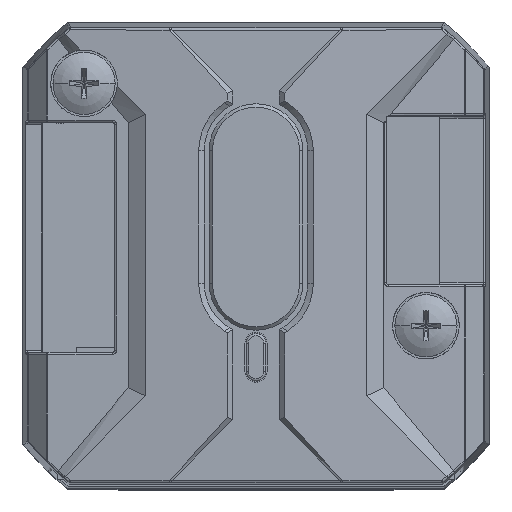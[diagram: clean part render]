
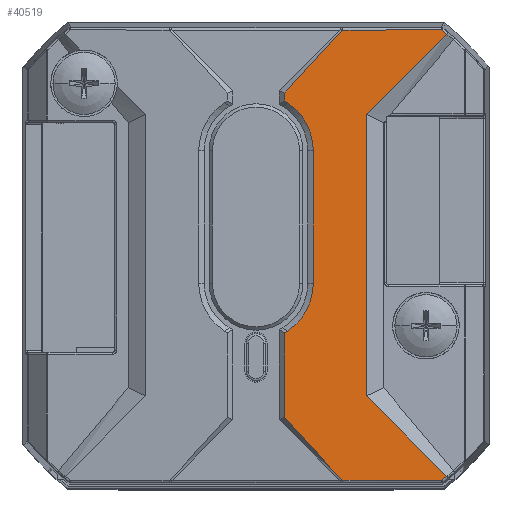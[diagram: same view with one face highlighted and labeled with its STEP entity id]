
A CAD part, top view. The second image highlights one B-rep face of the part: STEP entity #40519.
In plain terms, the highlighted planar face has unit normal (0.088, 0, 0.996).
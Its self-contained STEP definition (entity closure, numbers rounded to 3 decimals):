
#33798=CARTESIAN_POINT('',(7.745,20.285,20.255));
#34108=CARTESIAN_POINT('',(7.745,-20.285,
20.255));
#34120=DIRECTION('',(0.,1.,0.));
#34121=VECTOR('',#34120,7.61);
#34122=CARTESIAN_POINT('',(2.584,-14.613,
20.709));
#34123=LINE('',#34122,#34121);
#34169=DIRECTION('',(0.,1.,0.));
#34170=VECTOR('',#34169,11.958);
#34171=CARTESIAN_POINT('',(5.162,-2.534,
20.482));
#34172=LINE('',#34171,#34170);
#34190=DIRECTION('',(0.,1.,0.));
#34191=VECTOR('',#34190,0.72);
#34192=CARTESIAN_POINT('',(2.584,13.893,20.709));
#34193=LINE('',#34192,#34191);
#34204=CARTESIAN_POINT('',(17.203,-19.918,
19.423));
#34205=CARTESIAN_POINT('',(17.202,-19.916,
19.423));
#34206=CARTESIAN_POINT('',(17.2,-19.914,
19.424));
#34207=CARTESIAN_POINT('',(17.197,-19.91,
19.424));
#34208=CARTESIAN_POINT('',(17.194,-19.908,
19.424));
#34209=CARTESIAN_POINT('',(17.193,-19.907,
19.424));
#34214=CARTESIAN_POINT('',(16.741,-20.306,
19.464));
#34215=CARTESIAN_POINT('',(16.814,-20.246,
19.458));
#34216=CARTESIAN_POINT('',(16.964,-20.122,
19.444));
#34217=CARTESIAN_POINT('',(17.122,-19.988,
19.43));
#34218=CARTESIAN_POINT('',(17.203,-19.918,
19.423));
#34223=DIRECTION('',(0.996,-0.002,-0.088));
#34224=VECTOR('',#34223,9.031);
#34225=CARTESIAN_POINT('',(7.745,-20.285,
20.255));
#34226=LINE('',#34225,#34224);
#34230=DIRECTION('',(0.672,-0.738,-0.059));
#34231=VECTOR('',#34230,7.682);
#34232=CARTESIAN_POINT('',(2.584,-14.613,
20.709));
#34233=LINE('',#34232,#34231);
#34237=CARTESIAN_POINT('',(0.006,-2.509,
20.936));
#34238=DIRECTION('',(-0.088,0.,
-0.996));
#34239=DIRECTION('',(0.547,-0.836,-0.048));
#34240=AXIS2_PLACEMENT_3D('',#34237,#34238,#34239);
#34245=CARTESIAN_POINT('',(0.025,-2.531,
20.934));
#34246=DIRECTION('',(-0.088,0.,-0.996));
#34247=DIRECTION('',(0.996,-0.001,-0.088));
#34248=AXIS2_PLACEMENT_3D('',#34245,#34246,#34247);
#34253=CARTESIAN_POINT('',(0.025,9.421,
20.934));
#34254=DIRECTION('',(-0.088,0.,-0.996));
#34255=DIRECTION('',(0.546,0.836,-0.048));
#34256=AXIS2_PLACEMENT_3D('',#34253,#34254,#34255);
#34261=CARTESIAN_POINT('',(0.006,9.399,
20.936));
#34262=DIRECTION('',(-0.088,0.,
-0.996));
#34263=DIRECTION('',(0.497,0.867,-0.044));
#34264=AXIS2_PLACEMENT_3D('',#34261,#34262,#34263);
#34269=DIRECTION('',(-0.672,-0.738,0.059));
#34270=VECTOR('',#34269,7.682);
#34271=CARTESIAN_POINT('',(7.745,20.285,20.255));
#34272=LINE('',#34271,#34270);
#34276=DIRECTION('',(-0.996,-0.002,0.088));
#34277=VECTOR('',#34276,9.031);
#34278=CARTESIAN_POINT('',(16.741,20.306,19.464));
#34279=LINE('',#34278,#34277);
#34283=CARTESIAN_POINT('',(17.203,19.918,19.423));
#34284=CARTESIAN_POINT('',(17.13,19.98,19.43));
#34285=CARTESIAN_POINT('',(16.981,20.107,19.443));
#34286=CARTESIAN_POINT('',(16.822,20.239,19.457));
#34287=CARTESIAN_POINT('',(16.741,20.306,19.464));
#34292=CARTESIAN_POINT('',(17.193,19.907,19.424));
#34293=CARTESIAN_POINT('',(17.194,19.908,19.424));
#34294=CARTESIAN_POINT('',(17.197,19.91,19.424));
#34295=CARTESIAN_POINT('',(17.2,19.914,19.424));
#34296=CARTESIAN_POINT('',(17.202,19.916,19.423));
#34297=CARTESIAN_POINT('',(17.203,19.918,19.423));
#34302=DIRECTION('',(0.706,0.706,-0.062));
#34303=VECTOR('',#34302,10.24);
#34304=CARTESIAN_POINT('',(9.966,12.68,20.06));
#34305=LINE('',#34304,#34303);
#34309=DIRECTION('',(-0.706,0.706,0.062));
#34310=VECTOR('',#34309,10.24);
#34311=CARTESIAN_POINT('',(17.193,-19.907,
19.424));
#34312=LINE('',#34311,#34310);
#34351=DIRECTION('',(0.,-1.,0.));
#34352=VECTOR('',#34351,25.36);
#34353=CARTESIAN_POINT('',(9.966,12.68,20.06));
#34354=LINE('',#34353,#34352);
#36872=CARTESIAN_POINT('',(17.193,19.907,19.424));
#37828=CARTESIAN_POINT('',(9.966,12.68,20.06));
#37829=CARTESIAN_POINT('',(9.966,-12.68,
20.06));
#37830=VERTEX_POINT('',#37828);
#37831=VERTEX_POINT('',#37829);
#37840=CARTESIAN_POINT('',(2.584,13.893,20.709));
#37841=CARTESIAN_POINT('',(2.584,14.613,20.709));
#37842=VERTEX_POINT('',#37840);
#37843=VERTEX_POINT('',#37841);
#37844=CARTESIAN_POINT('',(2.584,-14.613,
20.709));
#37845=CARTESIAN_POINT('',(2.584,-7.003,
20.709));
#37846=VERTEX_POINT('',#37844);
#37847=VERTEX_POINT('',#37845);
#37880=CARTESIAN_POINT('',(2.841,-6.844,
20.686));
#37882=VERTEX_POINT('',#37880);
#37884=CARTESIAN_POINT('',(5.162,-2.534,
20.482));
#37886=VERTEX_POINT('',#37884);
#37888=CARTESIAN_POINT('',(5.162,9.424,20.482));
#37890=VERTEX_POINT('',#37888);
#37892=CARTESIAN_POINT('',(2.841,13.734,20.686));
#37894=VERTEX_POINT('',#37892);
#38233=VERTEX_POINT('',#34204);
#38234=VERTEX_POINT('',#34209);
#38237=VERTEX_POINT('',#34214);
#38244=VERTEX_POINT('',#34108);
#38278=VERTEX_POINT('',#36872);
#38279=VERTEX_POINT('',#34297);
#38281=VERTEX_POINT('',#34287);
#38282=VERTEX_POINT('',#33798);
#40487=CARTESIAN_POINT('',(2.584,-21.061,
20.709));
#40488=DIRECTION('',(0.088,0.,0.996));
#40489=DIRECTION('',(0.996,0.,-0.088));
#40490=AXIS2_PLACEMENT_3D('',#40487,#40488,#40489);
#40491=PLANE('',#40490);
#40493=ORIENTED_EDGE('',*,*,#40492,.F.);
#40495=ORIENTED_EDGE('',*,*,#40494,.F.);
#40496=ORIENTED_EDGE('',*,*,#40227,.F.);
#40497=ORIENTED_EDGE('',*,*,#40296,.F.);
#40498=ORIENTED_EDGE('',*,*,#40310,.T.);
#40499=ORIENTED_EDGE('',*,*,#40343,.F.);
#40500=ORIENTED_EDGE('',*,*,#40383,.F.);
#40501=ORIENTED_EDGE('',*,*,#40397,.T.);
#40502=ORIENTED_EDGE('',*,*,#40435,.F.);
#40503=ORIENTED_EDGE('',*,*,#40469,.F.);
#40504=ORIENTED_EDGE('',*,*,#40480,.T.);
#40505=ORIENTED_EDGE('',*,*,#40056,.F.);
#40506=ORIENTED_EDGE('',*,*,#40019,.F.);
#40508=ORIENTED_EDGE('',*,*,#40507,.F.);
#40510=ORIENTED_EDGE('',*,*,#40509,.F.);
#40512=ORIENTED_EDGE('',*,*,#40511,.F.);
#40514=ORIENTED_EDGE('',*,*,#40513,.T.);
#40516=ORIENTED_EDGE('',*,*,#40515,.F.);
#40517=EDGE_LOOP('',(#40493,#40495,#40496,#40497,#40498,#40499,#40500,#40501,
#40502,#40503,#40504,#40505,#40506,#40508,#40510,#40512,#40514,#40516));
#40518=FACE_OUTER_BOUND('',#40517,.F.);
#40519=ADVANCED_FACE('',(#40518),#40491,.T.);
#34210=B_SPLINE_CURVE_WITH_KNOTS('',3,(#34204,#34205,#34206,#34207,#34208,
#34209),.UNSPECIFIED.,.F.,.F.,(4,1,1,4),(0.,0.333,
0.667,1.),.UNSPECIFIED.);
#34219=B_SPLINE_CURVE_WITH_KNOTS('',3,(#34214,#34215,#34216,#34217,#34218),
.UNSPECIFIED.,.F.,.F.,(4,1,4),(0.,0.5,1.),.UNSPECIFIED.);
#34241=CIRCLE('',#34240,5.186);
#34249=CIRCLE('',#34248,5.157);
#34257=CIRCLE('',#34256,5.157);
#34265=CIRCLE('',#34264,5.186);
#34288=B_SPLINE_CURVE_WITH_KNOTS('',3,(#34283,#34284,#34285,#34286,#34287),
.UNSPECIFIED.,.F.,.F.,(4,1,4),(0.,0.5,1.),.UNSPECIFIED.);
#34298=B_SPLINE_CURVE_WITH_KNOTS('',3,(#34292,#34293,#34294,#34295,#34296,
#34297),.UNSPECIFIED.,.F.,.F.,(4,1,1,4),(0.,0.333,
0.667,1.),.UNSPECIFIED.);
#40019=EDGE_CURVE('',#38281,#38282,#34279,.T.);
#40056=EDGE_CURVE('',#38282,#37843,#34272,.T.);
#40227=EDGE_CURVE('',#38244,#38237,#34226,.T.);
#40296=EDGE_CURVE('',#37846,#38244,#34233,.T.);
#40310=EDGE_CURVE('',#37846,#37847,#34123,.T.);
#40343=EDGE_CURVE('',#37882,#37847,#34241,.T.);
#40383=EDGE_CURVE('',#37886,#37882,#34249,.T.);
#40397=EDGE_CURVE('',#37886,#37890,#34172,.T.);
#40435=EDGE_CURVE('',#37894,#37890,#34257,.T.);
#40469=EDGE_CURVE('',#37842,#37894,#34265,.T.);
#40480=EDGE_CURVE('',#37842,#37843,#34193,.T.);
#40492=EDGE_CURVE('',#38233,#38234,#34210,.T.);
#40494=EDGE_CURVE('',#38237,#38233,#34219,.T.);
#40507=EDGE_CURVE('',#38279,#38281,#34288,.T.);
#40509=EDGE_CURVE('',#38278,#38279,#34298,.T.);
#40511=EDGE_CURVE('',#37830,#38278,#34305,.T.);
#40513=EDGE_CURVE('',#37830,#37831,#34354,.T.);
#40515=EDGE_CURVE('',#38234,#37831,#34312,.T.);
